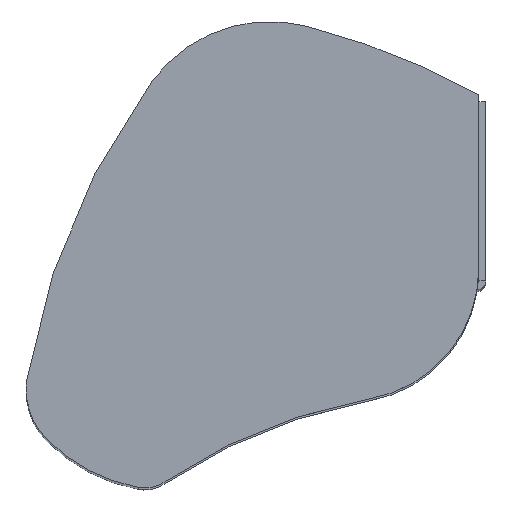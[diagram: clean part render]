
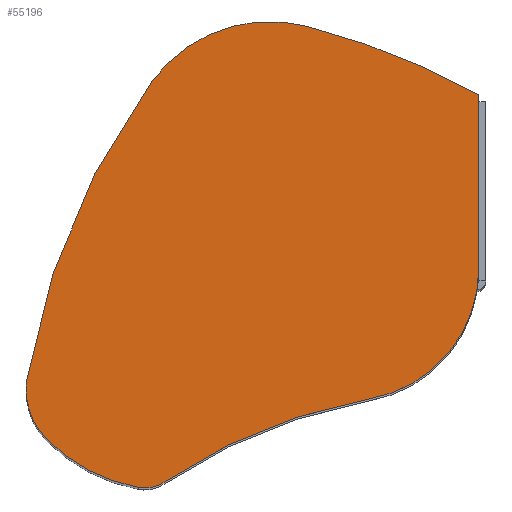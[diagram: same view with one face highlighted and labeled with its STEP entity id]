
A CAD part, top view. The second image highlights one B-rep face of the part: STEP entity #55196.
In plain terms, the highlighted planar face has unit normal (0, 0, 1).
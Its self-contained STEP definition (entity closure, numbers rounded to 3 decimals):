
#175 = DIRECTION ( 'NONE',  ( 1., 0., 0. ) ) ;
#991 = EDGE_CURVE ( 'NONE', #58780, #34201, #46428, .T. ) ;
#1441 = DIRECTION ( 'NONE',  ( 1., 0., 0. ) ) ;
#1582 = DIRECTION ( 'NONE',  ( 1., 0., 0. ) ) ;
#1733 = CARTESIAN_POINT ( 'NONE',  ( 41.297, 49.329, 167. ) ) ;
#1757 = AXIS2_PLACEMENT_3D ( 'NONE', #1733, #22015, #53906 ) ;
#1882 = CARTESIAN_POINT ( 'NONE',  ( 98.69, 25.594, 167. ) ) ;
#3480 = DIRECTION ( 'NONE',  ( 0., 0., 1. ) ) ;
#3527 = AXIS2_PLACEMENT_3D ( 'NONE', #37781, #53533, #1582 ) ;
#4363 = ORIENTED_EDGE ( 'NONE', *, *, #7566, .T. ) ;
#4572 = EDGE_CURVE ( 'NONE', #7034, #13972, #45584, .T. ) ;
#5353 = AXIS2_PLACEMENT_3D ( 'NONE', #65319, #34029, #12648 ) ;
#5380 = EDGE_CURVE ( 'NONE', #33815, #48789, #14603, .T. ) ;
#7034 = VERTEX_POINT ( 'NONE', #38324 ) ;
#7566 = EDGE_CURVE ( 'NONE', #13972, #33815, #17721, .T. ) ;
#8564 = CARTESIAN_POINT ( 'NONE',  ( 20., 28.2, 167. ) ) ;
#9239 = DIRECTION ( 'NONE',  ( 1., 0., 0. ) ) ;
#9640 = AXIS2_PLACEMENT_3D ( 'NONE', #33087, #10584, #15797 ) ;
#10584 = DIRECTION ( 'NONE',  ( 0., 0., 1. ) ) ;
#10986 = EDGE_CURVE ( 'NONE', #54174, #7034, #36364, .T. ) ;
#11080 = CIRCLE ( 'NONE', #58949, 20. ) ;
#11889 = ORIENTED_EDGE ( 'NONE', *, *, #25017, .T. ) ;
#11937 = AXIS2_PLACEMENT_3D ( 'NONE', #55204, #3480, #13490 ) ;
#12648 = DIRECTION ( 'NONE',  ( -1., 0., 0. ) ) ;
#12732 = ORIENTED_EDGE ( 'NONE', *, *, #991, .T. ) ;
#13325 = AXIS2_PLACEMENT_3D ( 'NONE', #53163, #37646, #1441 ) ;
#13490 = DIRECTION ( 'NONE',  ( -1., 0., 0. ) ) ;
#13518 = AXIS2_PLACEMENT_3D ( 'NONE', #61255, #45491, #14960 ) ;
#13972 = VERTEX_POINT ( 'NONE', #1882 ) ;
#14603 = LINE ( 'NONE', #30380, #59461 ) ;
#14815 = DIRECTION ( 'NONE',  ( 1., 0., 0. ) ) ;
#14960 = DIRECTION ( 'NONE',  ( 1., 0., 0. ) ) ;
#15345 = DIRECTION ( 'NONE',  ( 0., 1., 0. ) ) ;
#15797 = DIRECTION ( 'NONE',  ( 1., 0., 0. ) ) ;
#17721 = CIRCLE ( 'NONE', #11937, 38. ) ;
#20493 = AXIS2_PLACEMENT_3D ( 'NONE', #58043, #36820, #175 ) ;
#22015 = DIRECTION ( 'NONE',  ( 0., 0., 1. ) ) ;
#25017 = EDGE_CURVE ( 'NONE', #28767, #58780, #46431, .T. ) ;
#28479 = ORIENTED_EDGE ( 'NONE', *, *, #10986, .T. ) ;
#28767 = VERTEX_POINT ( 'NONE', #33692 ) ;
#30380 = CARTESIAN_POINT ( 'NONE',  ( 130., 63., 167. ) ) ;
#31138 = PLANE ( 'NONE',  #20493 ) ;
#31220 = CIRCLE ( 'NONE', #31970, 42. ) ;
#31970 = AXIS2_PLACEMENT_3D ( 'NONE', #62473, #57212, #14815 ) ;
#32155 = EDGE_CURVE ( 'NONE', #34201, #33491, #11080, .T. ) ;
#32882 = CARTESIAN_POINT ( 'NONE',  ( 5.802, 14.114, 167. ) ) ;
#33087 = CARTESIAN_POINT ( 'NONE',  ( 20., 28.2, 167. ) ) ;
#33491 = VERTEX_POINT ( 'NONE', #32882 ) ;
#33692 = CARTESIAN_POINT ( 'NONE',  ( 36.086, 116.775, 167. ) ) ;
#33815 = VERTEX_POINT ( 'NONE', #50643 ) ;
#34029 = DIRECTION ( 'NONE',  ( 0., 0., -1. ) ) ;
#34201 = VERTEX_POINT ( 'NONE', #42144 ) ;
#35753 = ORIENTED_EDGE ( 'NONE', *, *, #4572, .T. ) ;
#36364 = CIRCLE ( 'NONE', #3527, 10. ) ;
#36820 = DIRECTION ( 'NONE',  ( 0., 0., 1. ) ) ;
#37646 = DIRECTION ( 'NONE',  ( 0., 0., 1. ) ) ;
#37781 = CARTESIAN_POINT ( 'NONE',  ( 34., 10., 167. ) ) ;
#38324 = CARTESIAN_POINT ( 'NONE',  ( 39.574, 1.698, 167. ) ) ;
#39971 = DIRECTION ( 'NONE',  ( 0., 0., 1. ) ) ;
#41508 = ORIENTED_EDGE ( 'NONE', *, *, #5380, .T. ) ;
#42144 = CARTESIAN_POINT ( 'NONE',  ( 0., 28.2, 167. ) ) ;
#43420 = EDGE_CURVE ( 'NONE', #48789, #59458, #67002, .T. ) ;
#43969 = CARTESIAN_POINT ( 'NONE',  ( 130., 113., 167. ) ) ;
#44198 = ORIENTED_EDGE ( 'NONE', *, *, #32155, .T. ) ;
#45491 = DIRECTION ( 'NONE',  ( 0., 0., 1. ) ) ;
#45584 = CIRCLE ( 'NONE', #5353, 155. ) ;
#46428 = CIRCLE ( 'NONE', #9640, 20. ) ;
#46431 = CIRCLE ( 'NONE', #13518, 200. ) ;
#48596 = ORIENTED_EDGE ( 'NONE', *, *, #43420, .T. ) ;
#48789 = VERTEX_POINT ( 'NONE', #43969 ) ;
#50643 = CARTESIAN_POINT ( 'NONE',  ( 130., 63., 167. ) ) ;
#53163 = CARTESIAN_POINT ( 'NONE',  ( 26.478, -75.436, 167. ) ) ;
#53533 = DIRECTION ( 'NONE',  ( 0., 0., 1. ) ) ;
#53906 = DIRECTION ( 'NONE',  ( 1., 0., 0. ) ) ;
#54174 = VERTEX_POINT ( 'NONE', #58119 ) ;
#54658 = CARTESIAN_POINT ( 'NONE',  ( 80.566, 132.649, 167. ) ) ;
#55196 = ADVANCED_FACE ( 'NONE', ( #64987 ), #31138, .T. ) ;
#55204 = CARTESIAN_POINT ( 'NONE',  ( 92., 63., 167. ) ) ;
#55477 = EDGE_CURVE ( 'NONE', #33491, #54174, #57600, .T. ) ;
#55639 = ORIENTED_EDGE ( 'NONE', *, *, #55477, .T. ) ;
#57212 = DIRECTION ( 'NONE',  ( 0., 0., 1. ) ) ;
#57600 = CIRCLE ( 'NONE', #1757, 50. ) ;
#58043 = CARTESIAN_POINT ( 'NONE',  ( 70., 92., 167. ) ) ;
#58119 = CARTESIAN_POINT ( 'NONE',  ( 32.176, 0.168, 167. ) ) ;
#58780 = VERTEX_POINT ( 'NONE', #60233 ) ;
#58949 = AXIS2_PLACEMENT_3D ( 'NONE', #8564, #39971, #9239 ) ;
#59458 = VERTEX_POINT ( 'NONE', #54658 ) ;
#59461 = VECTOR ( 'NONE', #15345, 1000. ) ;
#60233 = CARTESIAN_POINT ( 'NONE',  ( 0.269, 31.467, 167. ) ) ;
#61255 = CARTESIAN_POINT ( 'NONE',  ( 197.582, -1.203, 167. ) ) ;
#62473 = CARTESIAN_POINT ( 'NONE',  ( 70., 92., 167. ) ) ;
#63263 = EDGE_CURVE ( 'NONE', #59458, #28767, #31220, .T. ) ;
#63370 = ORIENTED_EDGE ( 'NONE', *, *, #63263, .T. ) ;
#64730 = EDGE_LOOP ( 'NONE', ( #63370, #11889, #12732, #44198, #55639, #28479, #35753, #4363, #41508, #48596 ) ) ;
#64987 = FACE_OUTER_BOUND ( 'NONE', #64730, .T. ) ;
#65319 = CARTESIAN_POINT ( 'NONE',  ( 125.978, -126.985, 167. ) ) ;
#67002 = CIRCLE ( 'NONE', #13325, 215. ) ;
